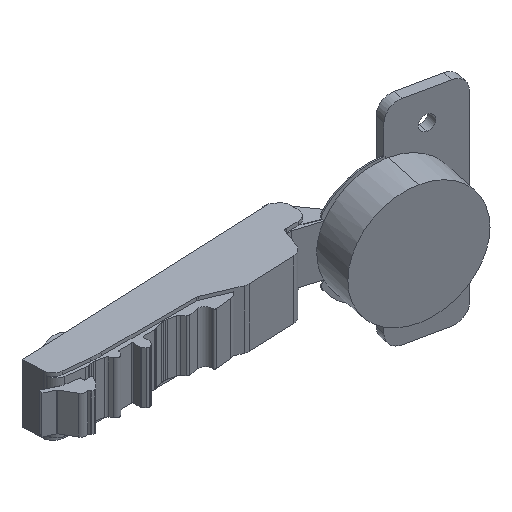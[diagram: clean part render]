
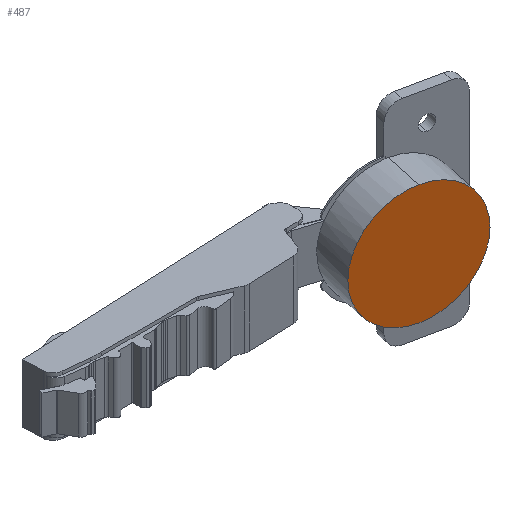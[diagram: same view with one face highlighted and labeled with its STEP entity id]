
A CAD part, isometric view. The second image highlights one B-rep face of the part: STEP entity #487.
In plain terms, the highlighted planar face has unit normal (-0.207, -0.978, 0).
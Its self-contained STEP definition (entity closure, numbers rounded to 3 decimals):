
#67 = EDGE_CURVE ( 'NONE', #4885, #3771, #1878, .T. ) ;
#487 = ADVANCED_FACE ( 'NONE', ( #4299 ), #2454, .F. ) ;
#505 = DIRECTION ( 'NONE',  ( -0.207, -0.978, 0. ) ) ;
#513 = EDGE_LOOP ( 'NONE', ( #3034, #2735 ) ) ;
#734 = AXIS2_PLACEMENT_3D ( 'NONE', #3539, #505, #3153 ) ;
#1085 = CIRCLE ( 'NONE', #1653, 17.4 ) ;
#1536 = AXIS2_PLACEMENT_3D ( 'NONE', #2404, #3149, #3203 ) ;
#1653 = AXIS2_PLACEMENT_3D ( 'NONE', #2917, #4475, #4927 ) ;
#1878 = CIRCLE ( 'NONE', #734, 17.4 ) ;
#2404 = CARTESIAN_POINT ( 'NONE',  ( 29.933, -24.478, -7.7 ) ) ;
#2454 = PLANE ( 'NONE',  #1536 ) ;
#2735 = ORIENTED_EDGE ( 'NONE', *, *, #67, .T. ) ;
#2781 = EDGE_CURVE ( 'NONE', #3771, #4885, #1085, .T. ) ;
#2917 = CARTESIAN_POINT ( 'NONE',  ( 19.205, -22.203, 0. ) ) ;
#3034 = ORIENTED_EDGE ( 'NONE', *, *, #2781, .T. ) ;
#3149 = DIRECTION ( 'NONE',  ( 0.207, 0.978, 0. ) ) ;
#3153 = DIRECTION ( 'NONE',  ( 0., 0., -1. ) ) ;
#3203 = DIRECTION ( 'NONE',  ( 0., 0., -1. ) ) ;
#3243 = CARTESIAN_POINT ( 'NONE',  ( 19.205, -22.203, -17.4 ) ) ;
#3539 = CARTESIAN_POINT ( 'NONE',  ( 19.205, -22.203, 0. ) ) ;
#3771 = VERTEX_POINT ( 'NONE', #4010 ) ;
#4010 = CARTESIAN_POINT ( 'NONE',  ( 19.205, -22.203, 17.4 ) ) ;
#4299 = FACE_OUTER_BOUND ( 'NONE', #513, .T. ) ;
#4475 = DIRECTION ( 'NONE',  ( -0.207, -0.978, 0. ) ) ;
#4885 = VERTEX_POINT ( 'NONE', #3243 ) ;
#4927 = DIRECTION ( 'NONE',  ( 0., 0., -1. ) ) ;
